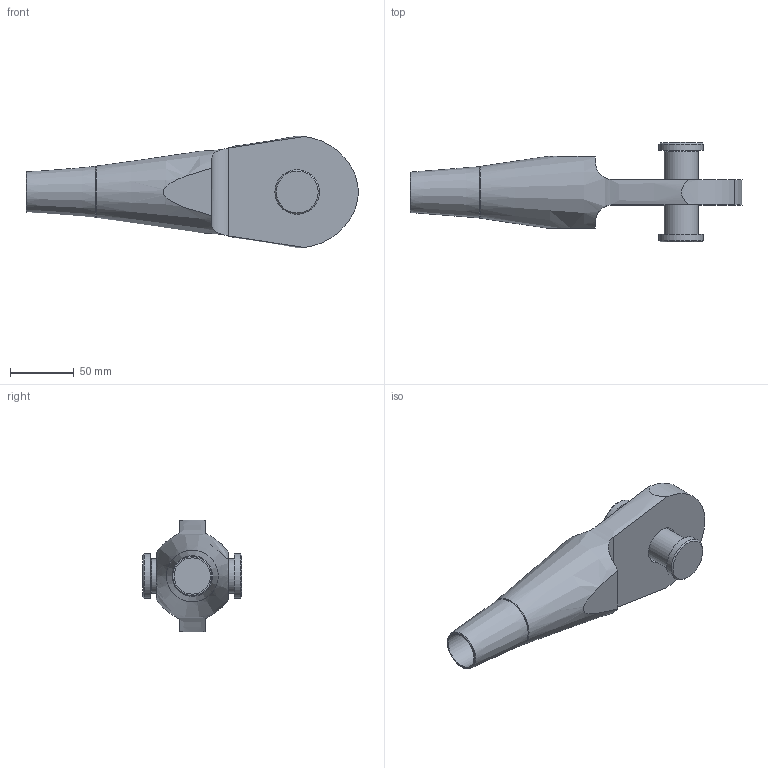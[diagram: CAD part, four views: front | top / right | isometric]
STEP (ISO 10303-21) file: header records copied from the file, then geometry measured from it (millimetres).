
FILE_DESCRIPTION(/* description */ (''),/* implementation_level */ '2;1');
FILE_NAME(/* name */ 'G:\Engineering\700 CAD\Internet-PX-1-step-igs-dxf\520-OES-Arbeitsdateien\520-027-OES.stp',/* time_stamp */ '2020-06-26T10:11:50+02:00',/* author */ ('schwarz'),/* organization */ (''),/* preprocessor_version */ 'ST-DEVELOPER v16.1',/* originating_system */ 'Autodesk Inventor 2016',/* authorisation */ '');
FILE_SCHEMA (('AUTOMOTIVE_DESIGN { 1 0 10303 214 3 1 1 }'));
Length unit declared in the file: centimetre
Products named in the file (1): 520-027-OES-KMU-Kunde
Bounding box: 261.38 x 78.51 x 88.03 mm (x, y, z)
Volume: 449741.6 mm3; surface area: 61043.2 mm2
Topology: 2 solids, 3 shells, 48 faces, 107 edges, 69 vertices
Faces by surface type: plane 21, cylinder 14, cone 12, torus 1
Full cylindrical faces by diameter (mm): 6.647 x1, 8 x1, 9 x1, 15.24 x1, 27 x1, 28.5 x1, 30 x1, 35 x2
Entity records: 1329 total; most frequent: CARTESIAN_POINT 309, DIRECTION 194, ORIENTED_EDGE 156, AXIS2_PLACEMENT_3D 87, EDGE_CURVE 78, EDGE_LOOP 76, VERTEX_POINT 62, STYLED_ITEM 50
